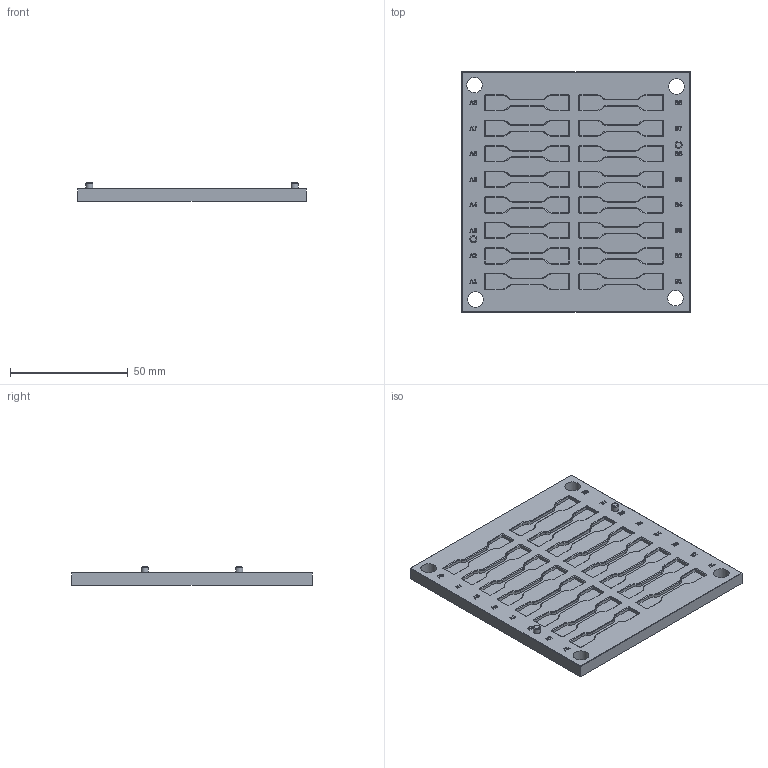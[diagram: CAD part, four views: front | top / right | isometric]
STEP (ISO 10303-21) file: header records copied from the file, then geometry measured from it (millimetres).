
FILE_DESCRIPTION(('Open CASCADE Model'),'2;1');
FILE_NAME('Open CASCADE Shape Model','2026-10-31T05:51:30',('Author'),( 'Open CASCADE'),'Open CASCADE STEP processor 7.8','Open CASCADE 7.8' ,'Unknown');
FILE_SCHEMA(('AUTOMOTIVE_DESIGN { 1 0 10303 214 1 1 1 1 }'));
Products named in the file (1): Open CASCADE STEP translator 7.8 1
Bounding box: 97 x 102 x 8 mm (x, y, z)
Volume: 49768.9 mm3; surface area: 24077 mm2
Topology: 1 solids, 1 shells, 1478 faces, 3792 edges, 2398 vertices
Faces by surface type: plane 606, extrusion 352, cylinder 262, cone 258
Full cylindrical faces by diameter (mm): 3 x2, 6.6 x4
Entity records: 98534 total; most frequent: CARTESIAN_POINT 27975, DIRECTION 11078, ORIENTED_EDGE 7584, PCURVE 7584, DEFINITIONAL_REPRESENTATION 7584, VECTOR 6992, LINE 6640, EDGE_CURVE 3792
